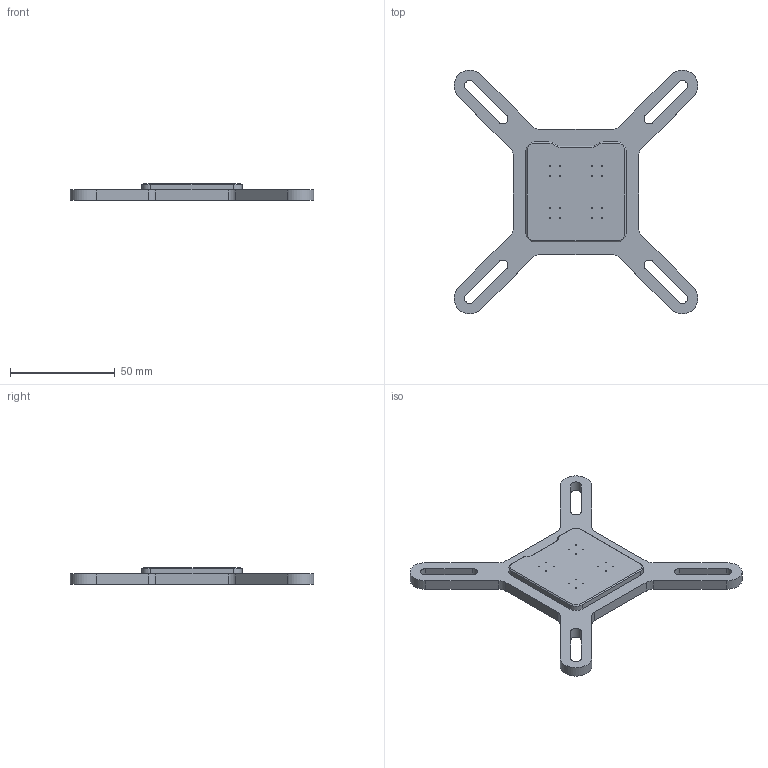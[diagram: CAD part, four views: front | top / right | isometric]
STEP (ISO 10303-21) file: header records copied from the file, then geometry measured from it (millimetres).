
FILE_DESCRIPTION(('FreeCAD Model'),'2;1');
FILE_NAME('C:/Users/magla/OneDrive - University of Bergen/RD53/FreeCAD/Wirebond jig/Quad/V0.1/Quad Module Wirebond Jig V0-1.step','2020-04-09T14:42:06', (''),(''),'Open CASCADE STEP processor 7.3','FreeCAD','Unknown');
FILE_SCHEMA(('AUTOMOTIVE_DESIGN { 1 0 10303 214 1 1 1 1 }'));
Length unit declared in the file: millimetre
Products named in the file (1): Wirebond_jig
Bounding box: 116.54 x 116.54 x 8 mm (x, y, z)
Volume: 31275 mm3; surface area: 15629 mm2
Topology: 1 solids, 1 shells, 96 faces, 262 edges, 170 vertices
Faces by surface type: cylinder 48, plane 40, cone 8
Full cylindrical faces by diameter (mm): 0.5 x16
Entity records: 6751 total; most frequent: CARTESIAN_POINT 1425, DIRECTION 1022, LINE 586, VECTOR 586, ORIENTED_EDGE 524, PCURVE 524, DEFINITIONAL_REPRESENTATION 524, EDGE_CURVE 262
